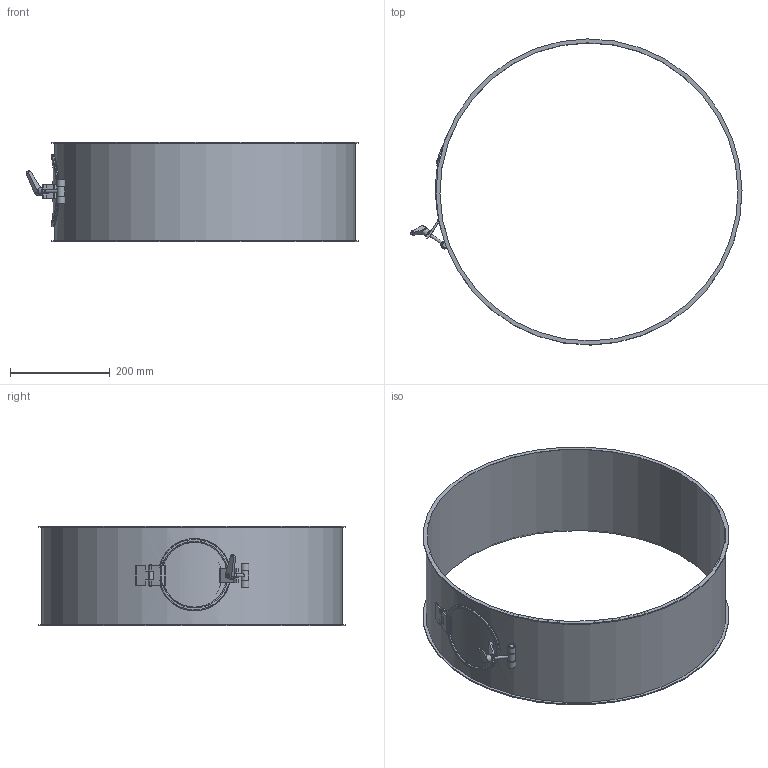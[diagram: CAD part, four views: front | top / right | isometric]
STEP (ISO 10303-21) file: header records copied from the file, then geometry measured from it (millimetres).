
FILE_DESCRIPTION((''),'2;1');
FILE_NAME('U:\Wolfgang\Marcel-3D\fertig\Kapitel 4\6021043.stp','2011-04-21T08:29:17',('TK1'),(''),'Autodesk Inventor 2010','Autodesk Inventor 2010','');
FILE_SCHEMA(('AUTOMOTIVE_DESIGN { 1 0 10303 214 1 1 1 1 }'));
Length unit declared in the file: millimetre
Products named in the file (13): 6021043 (Detailgenauigkeit1); 6021043-1; GelenkDeckel60b; GelenkDeckel1c; Deckel602; Deckel60b; GelenkDeckel35a; dichtung60; Halterung Deckel60; VerschlussB8; Verschluss1; Verschluss2; Verstellbarer Klemmhebel GN 101-14-M6-SW
Assembly tree (13 placements, depth 3):
  6021043 (Detailgenauigkeit1)
    6021043-1
    GelenkDeckel60b
    GelenkDeckel1c
    Deckel602
      Deckel60b
      GelenkDeckel35a
      dichtung60
      Halterung Deckel60
    VerschlussB8
      Verschluss1  x2
      Verschluss2
    Verstellbarer Klemmhebel GN 101-14-M6-SW
Bounding box: 666.06 x 613.98 x 200 mm (x, y, z)
Volume: 848055.5 mm3; surface area: 845838.7 mm2
Topology: 11 solids, 11 shells, 143 faces, 328 edges, 215 vertices
Faces by surface type: plane 67, cylinder 47, cone 18, torus 5, bspline 4, sphere 2
Full cylindrical faces by diameter (mm): 4.8 x1, 6 x5, 8 x1, 10 x3, 11 x2, 14 x1, 15 x1, 16 x2, 115 x1, 130 x1, 135 x1, 145 x1, 598 x1, 602 x1, 614 x2
Entity records: 5592 total; most frequent: CARTESIAN_POINT 2324, DIRECTION 632, ORIENTED_EDGE 532, EDGE_CURVE 266, AXIS2_PLACEMENT_3D 247, VERTEX_POINT 195, EDGE_LOOP 193, VECTOR 138
